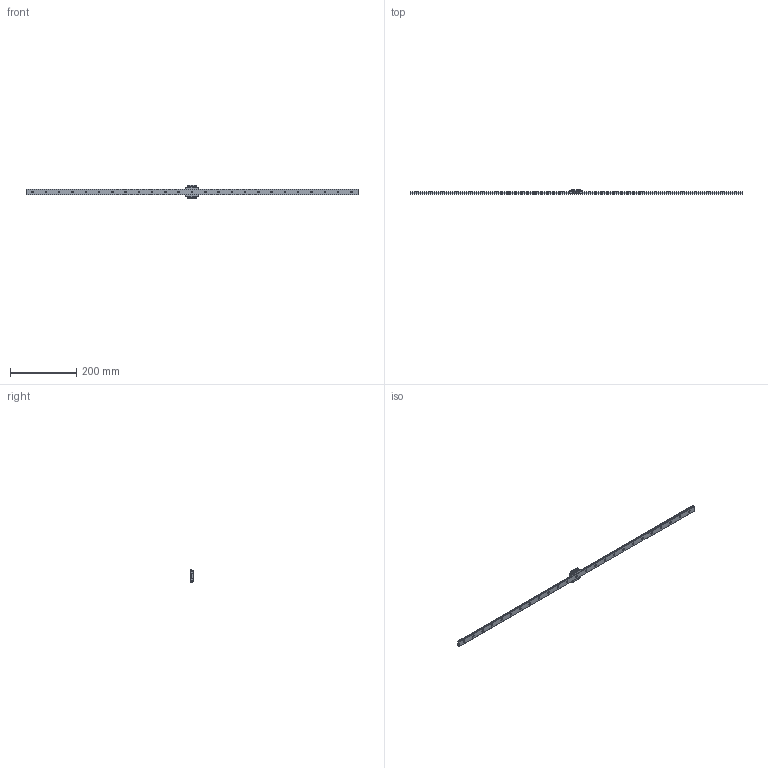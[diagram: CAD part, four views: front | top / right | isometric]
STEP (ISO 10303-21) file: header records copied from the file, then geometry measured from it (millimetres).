
FILE_DESCRIPTION( ( '' ), '1' );
FILE_NAME( 'C:/Users/v3-771-32344/Documents/Website 2016/STEP/SHW12CAM1UU1000200481.5000.stp', '2016-11-10T12:43:02', ( '' ), ( '' ), ' ', ' ', ' ' );
FILE_SCHEMA( ( 'CONFIG_CONTROL_DESIGN' ) );
Length unit declared in the file: millimetre
Products named in the file (2): 1; 2
Bounding box: 1000 x 12 x 40 mm (x, y, z)
Volume: 112271.8 mm3; surface area: 57016.8 mm2
Topology: 2 solids, 2 shells, 319 faces, 840 edges, 552 vertices
Faces by surface type: cylinder 168, plane 135, cone 16
Entity records: 10342 total; most frequent: CARTESIAN_POINT 1905, DIRECTION 1836, ORIENTED_EDGE 1680, EDGE_CURVE 840, AXIS2_PLACEMENT_3D 693, VERTEX_POINT 552, LINE 450, VECTOR 450
